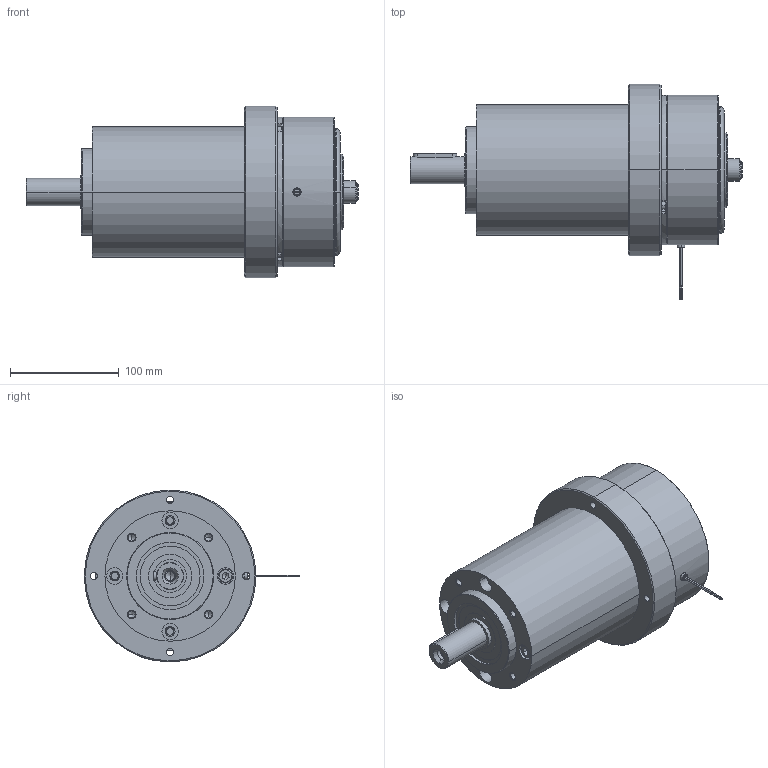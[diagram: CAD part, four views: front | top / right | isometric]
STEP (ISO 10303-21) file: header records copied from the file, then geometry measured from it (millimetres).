
FILE_DESCRIPTION (( 'STEP AP214' ), '1' );
FILE_NAME ('84 Z 0035 A 000 HB-450M-2G16 - PG120.STEP', '2022-03-09T14:29:39', ( '' ), ( '' ), 'SwSTEP 2.0', 'SolidWorks 2021', '' );
FILE_SCHEMA (( 'AUTOMOTIVE_DESIGN' ));
Length unit declared in the file: millimetre
Products named in the file (8): 84 Z 0035 B 101  -  Flansch; 84 Z 0035 A 000  HB-450M-2G16 - PG120; 84 Z 0035 B 102  -  Buchse; PD120-i=16-Planetroll; DIN 7991  -  M5 x 16_DIN 7991  -  M5 x 16; DIN 6885  -  A5 x 5 x 20_DIN 6885  -  A5 x 5 x 20; EB-450M-2DS (Magnetic); DIN 912  -  M8 x 120_DIN 912  -  M8 x 120
Assembly tree (9 placements, depth 2):
  84 Z 0035 A 000  HB-450M-2G16 - PG120
    84 Z 0035 B 101  -  Flansch
    EB-450M-2DS (Magnetic)
    PD120-i=16-Planetroll
    84 Z 0035 B 102  -  Buchse
    DIN 6885  -  A5 x 5 x 20_DIN 6885  -  A5 x 5 x 20
    DIN 912  -  M8 x 120_DIN 912  -  M8 x 120
    DIN 7991  -  M5 x 16_DIN 7991  -  M5 x 16  x3
Bounding box: 305.46 x 198.25 x 158 mm (x, y, z)
Volume: 2789834.6 mm3; surface area: 465191.5 mm2
Topology: 55 solids, 56 shells, 1368 faces, 3478 edges, 2206 vertices
Faces by surface type: cylinder 490, plane 435, cone 333, torus 56, sphere 48, bspline 6
Entity records: 52725 total; most frequent: CARTESIAN_POINT 8623, DIRECTION 6839, ORIENTED_EDGE 6412, EDGE_CURVE 3206, AXIS2_PLACEMENT_3D 2773, VERTEX_POINT 2072, EDGE_LOOP 1478, CIRCLE 1451
